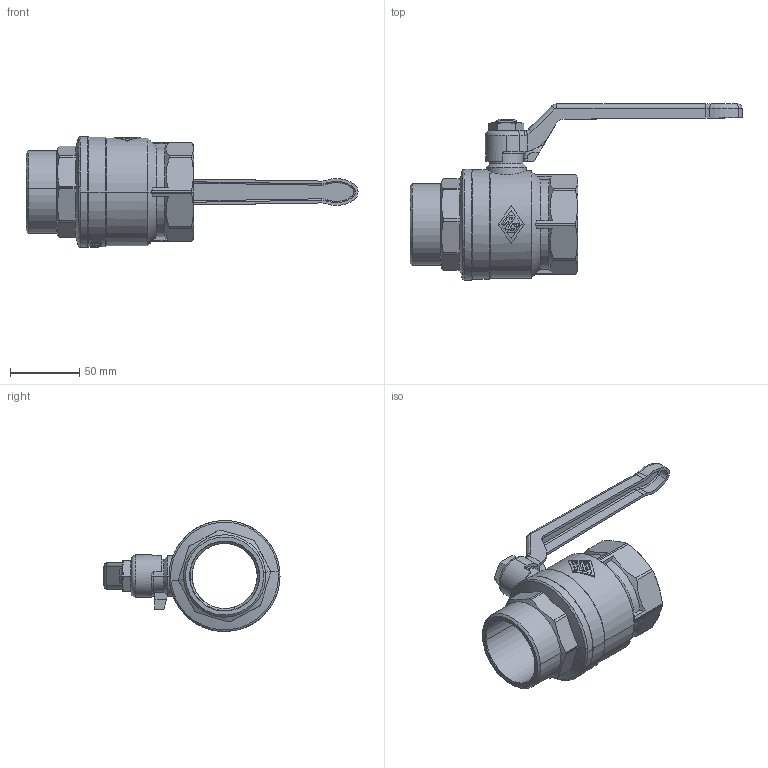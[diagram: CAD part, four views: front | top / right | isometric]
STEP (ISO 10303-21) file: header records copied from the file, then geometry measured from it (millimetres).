
FILE_DESCRIPTION(('OneSpaceDesigner STEP Export'),'2;1');
FILE_NAME('1501100000.stp','2007-10-06T10:45:16',(''),(''),'OneSpace Designer STEP processor for AP214 (Solid Model)','OneSpace Modeling 15.00B 25-Jun-2007 (C) CoCreate Software GmbH','');
FILE_SCHEMA(('AUTOMOTIVE_DESIGN { 1 0 10303 214 1 1 1 1 }'));
Length unit declared in the file: millimetre
Products named in the file (2): 1501100000
Assembly tree (1 placements, depth 2):
  1501100000
    1501100000
Bounding box: 239.5 x 127 x 80 mm (x, y, z)
Volume: 274164 mm3; surface area: 71903.5 mm2
Topology: 1 solids, 3 shells, 813 faces, 2218 edges, 1432 vertices
Faces by surface type: plane 496, cylinder 201, cone 69, bspline 23, torus 20, extrusion 4
Entity records: 38180 total; most frequent: CARTESIAN_POINT 17503, ORIENTED_EDGE 4430, DIRECTION 3768, EDGE_CURVE 2215, VERTEX_POINT 1432, AXIS2_PLACEMENT_3D 1379, VECTOR 1010, LINE 1006
